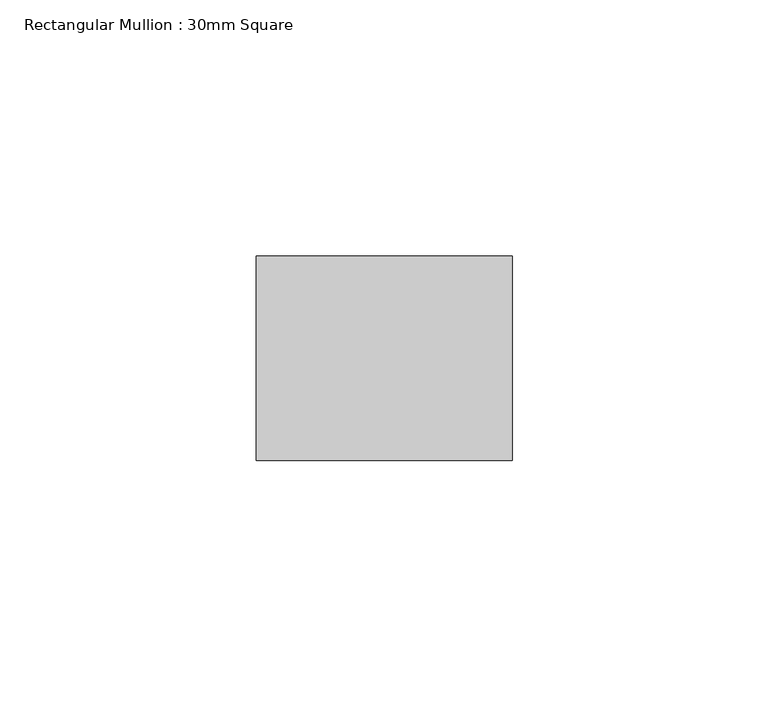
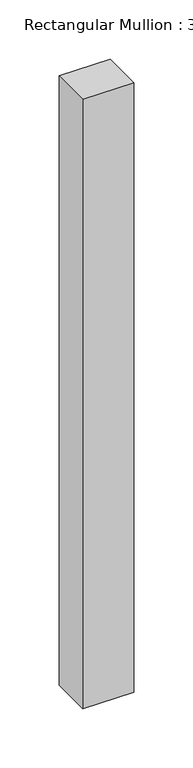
"""IFC4 building model written with IfcOpenShell, lengths in millimetres: member geometry, Rectangular Mullion : 30mm Square."""

from ifc_helpers import new_model, si_unit, frame, origin, place, context, project, spatial, polyline, outline, extrude, source, transform, mapped, element, save


def rectangular_mullion_30mm_square_fb616f05(model_context):
    return source(origin(), model_context, "Body", "SweptSolid", [
        extrude(outline(polyline([(0.0, 20.0), (0.0, -20.0), (-50.0, -20.0), (-50.0, 20.0), (0.0, 20.0)])), frame((0.0, 0.0, -630.0), z_axis=(0.0, 0.0, 1.0), x_axis=(1.0, 0.0, 0.0)), (0.0, 0.0, 1.0), 630.0),
    ])


if __name__ == "__main__":
    model = new_model("IFC4")
    model_context = context("Model", 3, world=origin())
    ifc_project = project(units=[si_unit("LENGTHUNIT", "METRE", prefix="MILLI")], contexts=[model_context])
    site = spatial("IfcSite", under=ifc_project)
    building = spatial("IfcBuilding", under=site)
    placement = place(None, origin())
    rectangular_mullion_30mm_square_shape = rectangular_mullion_30mm_square_fb616f05(model_context)
    element("IfcMember", 1, ObjectType="Rectangular Mullion : 30mm Square", at=placement, inside=building, context=model_context, shape_type="MappedRepresentation", body=[
        mapped(rectangular_mullion_30mm_square_shape, transform((0.0, 0.0, 0.0), x_axis=(1.0, 0.0, 0.0), y_axis=(0.0, 1.0, 0.0), z_axis=(0.0, 0.0, 1.0))),
    ])
    save(model, "model.ifc")
